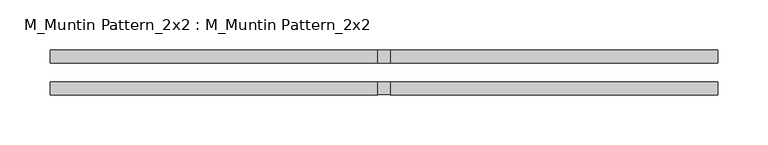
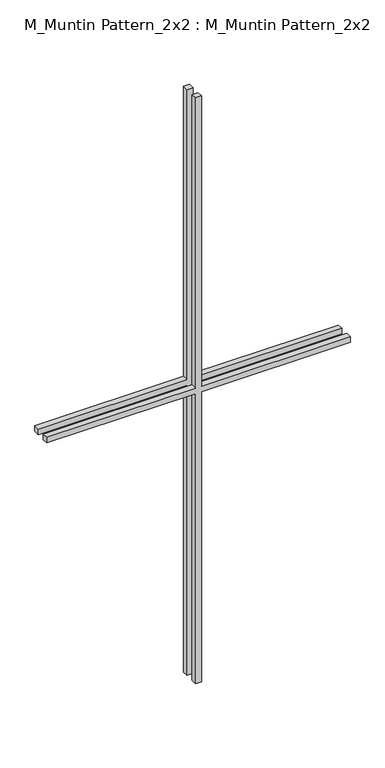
"""IFC4 building model written with IfcOpenShell, lengths in millimetres: proxy geometry, M_Muntin Pattern_2x2 : M_Muntin Pattern_2x2."""

from ifc_helpers import new_model, si_unit, frame, origin, place, context, project, spatial, polyline, outline, extrude, source, transform, mapped, element, save


def m_muntin_pattern_2x2_m_muntin_pattern_2x2_30659562(model_context):
    return source(origin(), model_context, "Body", "SweptSolid", [
        extrude(outline(polyline([(683.325, -6.35), (683.325, -332.1375), (670.625, -332.1375), (670.625, -6.35), (0.0, -6.35), (0.0, 6.35), (670.625, 6.35), (670.625, 332.1375), (683.325, 332.1375), (683.325, 6.35), (1353.95, 6.35), (1353.95, -6.35), (683.325, -6.35)])), frame((0.0, 9.525, 0.0), z_axis=(0.0, 1.0, 0.0), x_axis=(0.0, 0.0, 1.0)), (0.0, 0.0, 1.0), 12.7),
        extrude(outline(polyline([(683.325, -6.35), (683.325, -332.1375), (670.625, -332.1375), (670.625, -6.35), (0.0, -6.35), (0.0, 6.35), (670.625, 6.35), (670.625, 332.1375), (683.325, 332.1375), (683.325, 6.35), (1353.95, 6.35), (1353.95, -6.35), (683.325, -6.35)])), frame((0.0, -22.225, 0.0), z_axis=(0.0, 1.0, 0.0), x_axis=(0.0, 0.0, 1.0)), (0.0, 0.0, 1.0), 12.7),
    ])


if __name__ == "__main__":
    model = new_model("IFC4")
    model_context = context("Model", 3, world=origin())
    ifc_project = project(units=[si_unit("LENGTHUNIT", "METRE", prefix="MILLI")], contexts=[model_context])
    site = spatial("IfcSite", under=ifc_project)
    building = spatial("IfcBuilding", under=site)
    placement = place(None, origin())
    m_muntin_pattern_2x2_m_muntin_pattern_2x2_shape = m_muntin_pattern_2x2_m_muntin_pattern_2x2_30659562(model_context)
    element("IfcBuildingElementProxy", 1, Name="M_Muntin Pattern_2x2 : M_Muntin Pattern_2x2", ObjectType="M_Muntin Pattern_2x2 : M_Muntin Pattern_2x2", at=placement, inside=building, context=model_context, shape_type="MappedRepresentation", body=[
        mapped(m_muntin_pattern_2x2_m_muntin_pattern_2x2_shape, transform((0.0, 0.0, 0.0), x_axis=(1.0, 0.0, 0.0), y_axis=(0.0, 1.0, 0.0), z_axis=(0.0, 0.0, 1.0))),
    ])
    save(model, "model.ifc")
